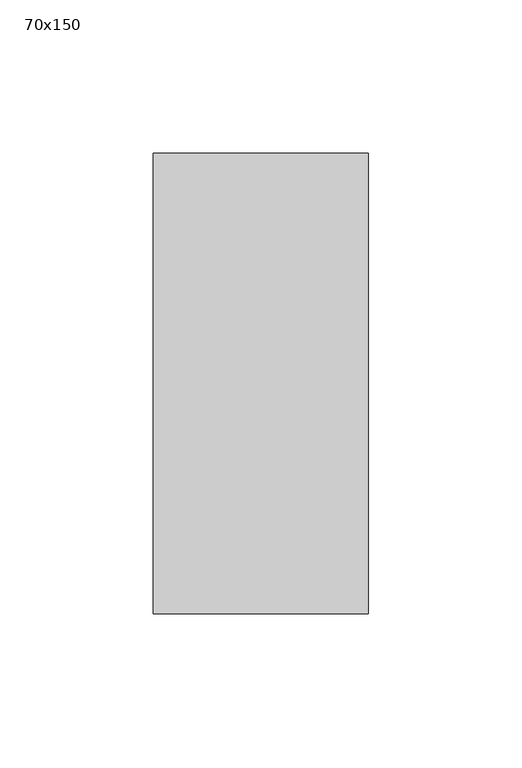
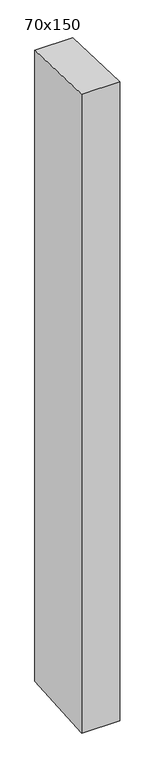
"""IFC4 building model written with IfcOpenShell, lengths in millimetres: member geometry, 長方形のマリオン : 70x150."""

from ifc_helpers import new_model, si_unit, frame, origin, place, context, project, spatial, polyline, outline, extrude, source, transform, mapped, element, save


def member_70x150_8f0671c1(model_context):
    return source(origin(), model_context, "Body", "SweptSolid", [
        extrude(outline(polyline([(-75.0, 2.8600187), (75.0, -2.8600187), (75.0, -1234.4919599), (-75.0, -1244.3866683), (-75.0, 2.8600187)])), frame((-35.0, 0.0, 0.0), z_axis=(1.0, 0.0, 0.0), x_axis=(0.0, 1.0, 0.0)), (0.0, 0.0, 1.0), 70.0),
    ])


if __name__ == "__main__":
    model = new_model("IFC4")
    model_context = context("Model", 3, world=origin())
    ifc_project = project(units=[si_unit("LENGTHUNIT", "METRE", prefix="MILLI")], contexts=[model_context])
    site = spatial("IfcSite", under=ifc_project)
    building = spatial("IfcBuilding", under=site)
    placement = place(None, origin())
    member_70x150_shape = member_70x150_8f0671c1(model_context)
    element("IfcMember", 1, ObjectType="長方形のマリオン : 70x150", at=placement, inside=building, context=model_context, shape_type="MappedRepresentation", body=[
        mapped(member_70x150_shape, transform((0.0, 0.0, 0.0), x_axis=(1.0, 0.0, 0.0), y_axis=(0.0, 1.0, 0.0), z_axis=(0.0, 0.0, 1.0))),
    ])
    save(model, "model.ifc")
